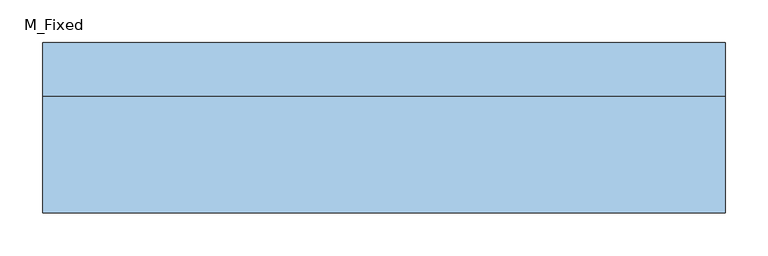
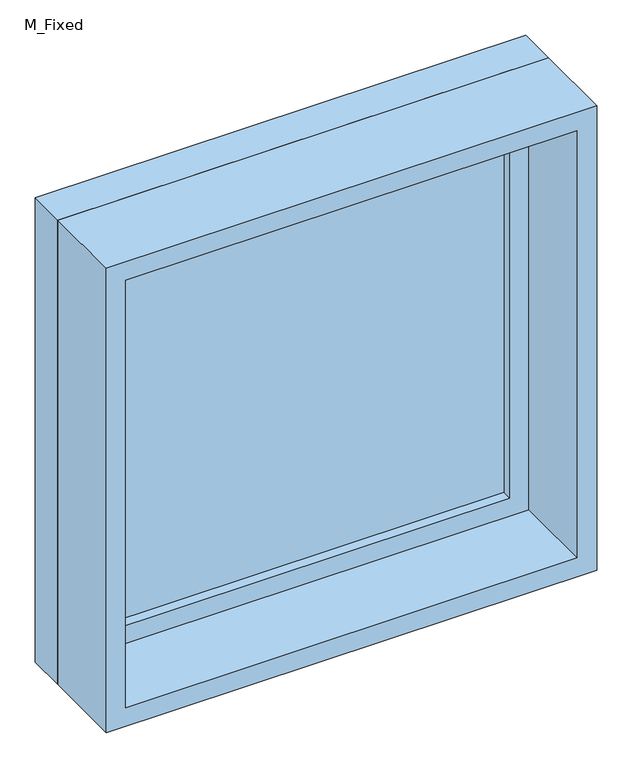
"""IFC4 building model written with IfcOpenShell, lengths in millimetres: window geometry, M_Fixed : ش 2."""

import ifcopenshell
import ifcopenshell.guid

model = None  # the IFC model being written
_history = None  # IfcOwnerHistory: only IFC2X3 demands one
_inside = {}  # id of a spatial element -> (the spatial element, [elements in it])
_under = {}  # id of a project, library or spatial element -> (it, [spatial elements below it])
_declared = {}  # id of a project -> (the project, [libraries it declares])
_typed = {}  # id of a type object -> (the type object, [elements of that type])
_made_of = {}  # id of a material, layer set ... -> (it, [elements and type objects made of it])


def new_model(schema):
    """Start an empty IFC model of exactly this schema.

    Asked for "IFC4X3", IfcOpenShell would pick the latest addendum, in which some entities
    have other attributes; the version numbers below select the first issue.
    IFC2X3 requires an IfcOwnerHistory on every rooted entity: one is made here for all.
    """
    global model, _history
    if schema == "IFC4X3":
        model = ifcopenshell.file(schema_version=(4, 3, 0, 0))
    else:
        model = ifcopenshell.file(schema=schema)
    _inside.clear()
    _under.clear()
    _declared.clear()
    _typed.clear()
    _made_of.clear()
    _history = None
    if model.schema == "IFC2X3":
        org = make("IfcOrganization", Name="unknown")
        user = make(
            "IfcPersonAndOrganization",
            ThePerson=make("IfcPerson", FamilyName="unknown"),
            TheOrganization=org,
        )
        app = make(
            "IfcApplication",
            ApplicationDeveloper=org,
            Version="unknown",
            ApplicationFullName="unknown",
            ApplicationIdentifier="unknown",
        )
        _history = make(
            "IfcOwnerHistory",
            OwningUser=user,
            OwningApplication=app,
            ChangeAction="ADDED",
            CreationDate=0,
        )
    return model


def make(cls, **values):
    """One entity of the class cls with the attributes given. An attribute that is None is left unset."""
    return model.create_entity(
        cls, **{name: value for name, value in values.items() if value is not None}
    )


def rooted(cls, **values):
    """An entity with a GlobalId (a new one), such as an element, a storey or a relation."""
    return make(cls, GlobalId=ifcopenshell.guid.new(), OwnerHistory=_history, **values)


def si_unit(unit_type, name, prefix=None):
    """IfcSIUnit, for example si_unit("LENGTHUNIT", "METRE", prefix="MILLI")."""
    return make("IfcSIUnit", UnitType=unit_type, Prefix=prefix, Name=name)


def assignment(units):
    """IfcUnitAssignment: the units of a project."""
    return None if units is None else make("IfcUnitAssignment", Units=units)


def point(xyz):
    """IfcCartesianPoint."""
    return None if xyz is None else make("IfcCartesianPoint", Coordinates=xyz)


def direction(xyz):
    """IfcDirection."""
    return None if xyz is None else make("IfcDirection", DirectionRatios=xyz)


def frame(location, z_axis=None, x_axis=None):
    """IfcAxis2Placement3D, a coordinate frame: its origin and axes. An axis left out is left unset."""
    return make(
        "IfcAxis2Placement3D",
        Location=point(location),
        Axis=direction(z_axis),
        RefDirection=direction(x_axis),
    )


def origin():
    """The frame at (0, 0, 0) with its axes left unset."""
    return frame((0.0, 0.0, 0.0))


def place(relative_to, where):
    """IfcLocalPlacement: puts the frame where relative to a parent placement (None: the world)."""
    return make(
        "IfcLocalPlacement", PlacementRelTo=relative_to, RelativePlacement=where
    )


def context(
    kind, dimensions, precision=None, world=None, true_north=None, identifier=None
):
    """IfcGeometricRepresentationContext, for example the 3D "Model" context."""
    return make(
        "IfcGeometricRepresentationContext",
        ContextIdentifier=identifier,
        ContextType=kind,
        CoordinateSpaceDimension=dimensions,
        Precision=precision,
        WorldCoordinateSystem=world,
        TrueNorth=true_north,
    )


def project(units=None, contexts=None):
    """IfcProject with its units and contexts."""
    return rooted(
        "IfcProject",
        Name="project",
        RepresentationContexts=contexts,
        UnitsInContext=assignment(units),
    )


def spatial(cls, under=None, at=None, **own):
    """A site, building, storey or space (cls), placed at a placement, below another one or the project."""
    s = rooted(cls, ObjectPlacement=at, **own)
    if under is not None:
        _under.setdefault(under.id(), (under, []))[1].append(s)
    return s


def polyline(points):
    """IfcPolyline through the points."""
    return make("IfcPolyline", Points=[point(p) for p in points])


def outline(outer, holes=None, kind="AREA"):
    """IfcArbitraryClosedProfileDef: a profile drawn as a closed curve; with holes, ...WithVoids."""
    if holes is None:
        return make("IfcArbitraryClosedProfileDef", ProfileType=kind, OuterCurve=outer)
    return make(
        "IfcArbitraryProfileDefWithVoids",
        ProfileType=kind,
        OuterCurve=outer,
        InnerCurves=holes,
    )


def extrude(swept, where, along, depth):
    """IfcExtrudedAreaSolid: the profile swept, set in the frame where, extruded along a direction by depth."""
    return make(
        "IfcExtrudedAreaSolid",
        SweptArea=swept,
        Position=where,
        ExtrudedDirection=direction(along),
        Depth=depth,
    )


def shape(context_of_items, identifier, shape_type, items):
    """IfcShapeRepresentation: the items that make up one representation, for example the "Body"."""
    return make(
        "IfcShapeRepresentation",
        ContextOfItems=context_of_items,
        RepresentationIdentifier=identifier,
        RepresentationType=shape_type,
        Items=items,
    )


def source(mapping_origin, context_of_items, identifier, shape_type, items):
    """IfcRepresentationMap: a shape defined once, which mapped items show again and again."""
    return make(
        "IfcRepresentationMap",
        MappingOrigin=mapping_origin,
        MappedRepresentation=shape(context_of_items, identifier, shape_type, items),
    )


def transform(
    local_origin,
    x_axis=None,
    y_axis=None,
    z_axis=None,
    scale=None,
    scale2=None,
    scale3=None,
    uniform=True,
):
    """IfcCartesianTransformationOperator3D, or its non-uniform kind. x_axis, y_axis, z_axis: its Axis1, 2, 3."""
    if uniform:
        return make(
            "IfcCartesianTransformationOperator3D",
            Axis1=direction(x_axis),
            Axis2=direction(y_axis),
            LocalOrigin=point(local_origin),
            Scale=scale,
            Axis3=direction(z_axis),
        )
    return make(
        "IfcCartesianTransformationOperator3DnonUniform",
        Axis1=direction(x_axis),
        Axis2=direction(y_axis),
        LocalOrigin=point(local_origin),
        Scale=scale,
        Axis3=direction(z_axis),
        Scale2=scale2,
        Scale3=scale3,
    )


def mapped(mapping_source, mapping_target):
    """IfcMappedItem: shows the shape of a source again, moved by a transform."""
    return make(
        "IfcMappedItem", MappingSource=mapping_source, MappingTarget=mapping_target
    )


def made_of(thing, what):
    """Note that an element or type object is made of a material, layer set ...; save() writes the relation."""
    if what is not None:
        _made_of.setdefault(what.id(), (what, []))[1].append(thing)
    return thing


def element(
    cls,
    number,
    at=None,
    inside=None,
    cuts=None,
    type_object=None,
    material=None,
    context=None,
    identifier="Body",
    shape_type=None,
    held_by="IfcProductDefinitionShape",
    body=None,
    shapes=None,
    **own,
):
    """One element of the class cls, such as IfcWall. Its Tag is "e" and its number.

    at: its placement. inside: the storey or other place that contains it. cuts: it is an
    opening in that element (IfcRelVoidsElement). A single representation is given by context,
    identifier, shape_type and body (its items); several are given by shapes. held_by: the class
    of the entity that holds the representations. save() writes the other relations.
    """
    e = rooted(cls, Tag="e%d" % number, ObjectPlacement=at, **own)
    if body is not None:
        shapes = [shape(context, identifier, shape_type, body)]
    if shapes is not None:
        e.Representation = make(held_by, Representations=shapes)
    if inside is not None:
        _inside.setdefault(inside.id(), (inside, []))[1].append(e)
    if cuts is not None:
        rooted(
            "IfcRelVoidsElement", RelatingBuildingElement=cuts, RelatedOpeningElement=e
        )
    if type_object is not None:
        _typed.setdefault(type_object.id(), (type_object, []))[1].append(e)
    return made_of(e, material)


def aggregate(whole, parts):
    """IfcRelAggregates: a whole, such as a stair, and the parts it consists of."""
    return rooted("IfcRelAggregates", RelatingObject=whole, RelatedObjects=parts)


def save(model, path):
    """Write the relations noted so far, then the file.

    IfcRelAggregates (storeys below a building ...), IfcRelContainedInSpatialStructure (elements
    in a storey), IfcRelDefinesByType, IfcRelAssociatesMaterial and IfcRelDeclares: one each for
    every whole, place, type object, material and project.
    """
    for whole, parts in _under.values():
        aggregate(whole, parts)
    for where, things in _inside.values():
        rooted(
            "IfcRelContainedInSpatialStructure",
            RelatedElements=things,
            RelatingStructure=where,
        )
    for kind, things in _typed.values():
        rooted("IfcRelDefinesByType", RelatedObjects=things, RelatingType=kind)
    for what, things in _made_of.values():
        rooted("IfcRelAssociatesMaterial", RelatedObjects=things, RelatingMaterial=what)
    for by, libraries in _declared.values():
        rooted("IfcRelDeclares", RelatingContext=by, RelatedDefinitions=libraries)
    model.write(path)


def m_fixed_1d0fbe82(model_context):
    return source(origin(), model_context, "Body", "SweptSolid", [
        extrude(outline(polyline([(-337.0, 78.0), (337.0, 78.0), (337.0, 66.0), (-337.0, 66.0), (-337.0, 78.0)])), frame((0.0, 0.0, 1563.0), z_axis=(0.0, 0.0, 1.0), x_axis=(1.0, 0.0, 0.0)), (0.0, 0.0, 1.0), 674.0),
        extrude(outline(polyline([(2281.0, -381.0), (1519.0, -381.0), (1519.0, 381.0), (2281.0, 381.0), (2281.0, -381.0)]), holes=[polyline([(2237.0, -337.0), (2237.0, 337.0), (1563.0, 337.0), (1563.0, -337.0), (2237.0, -337.0)])]), frame((0.0, 50.0, 0.0), z_axis=(0.0, 1.0, 0.0), x_axis=(0.0, 0.0, 1.0)), (0.0, 0.0, 1.0), 44.0),
        extrude(outline(polyline([(2300.0, -400.0), (1500.0, -400.0), (1500.0, 400.0), (2300.0, 400.0), (2300.0, -400.0)]), holes=[polyline([(2281.0, -381.0), (2281.0, 381.0), (1519.0, 381.0), (1519.0, -381.0), (2281.0, -381.0)])]), frame((0.0, 50.0, 0.0), z_axis=(0.0, 1.0, 0.0), x_axis=(0.0, 0.0, 1.0)), (0.0, 0.0, 1.0), 63.0),
        extrude(outline(polyline([(2300.0, -400.0), (1500.0, -400.0), (1500.0, 400.0), (2300.0, 400.0), (2300.0, -400.0)]), holes=[polyline([(2268.0, -368.0), (2268.0, 368.0), (1532.0, 368.0), (1532.0, -368.0), (2268.0, -368.0)])]), frame((0.0, -87.0, 0.0), z_axis=(0.0, 1.0, 0.0), x_axis=(0.0, 0.0, 1.0)), (0.0, 0.0, 1.0), 137.0),
    ])


if __name__ == "__main__":
    model = new_model("IFC4")
    model_context = context("Model", 3, world=origin())
    ifc_project = project(units=[si_unit("LENGTHUNIT", "METRE", prefix="MILLI")], contexts=[model_context])
    site = spatial("IfcSite", under=ifc_project)
    building = spatial("IfcBuilding", under=site)
    placement = place(None, origin())
    m_fixed_shape = m_fixed_1d0fbe82(model_context)
    element("IfcWindow", 1, ObjectType="M_Fixed : ش 2", at=placement, inside=building, context=model_context, shape_type="MappedRepresentation", body=[
        mapped(m_fixed_shape, transform((0.0, 0.0, 0.0), x_axis=(1.0, 0.0, 0.0), y_axis=(0.0, 1.0, 0.0), z_axis=(0.0, 0.0, 1.0))),
    ])
    save(model, "model.ifc")
